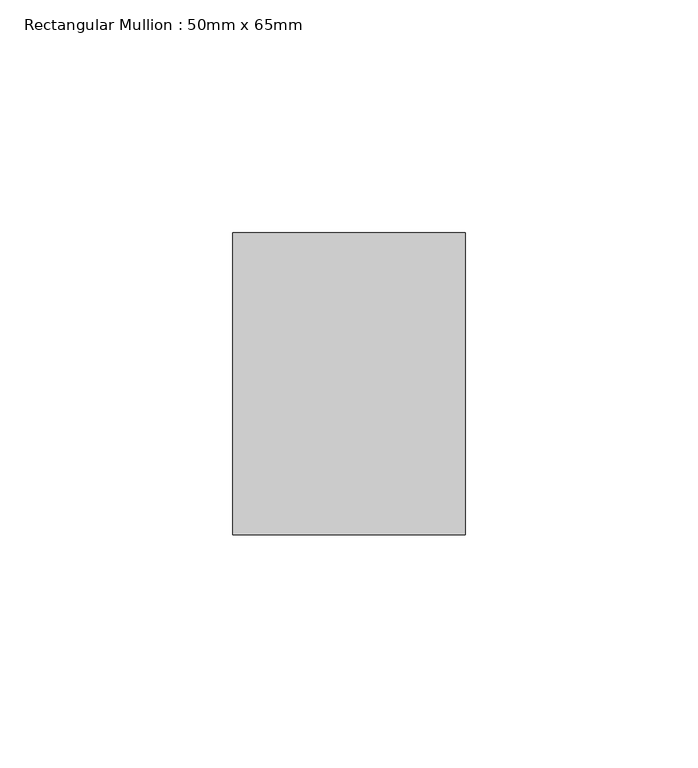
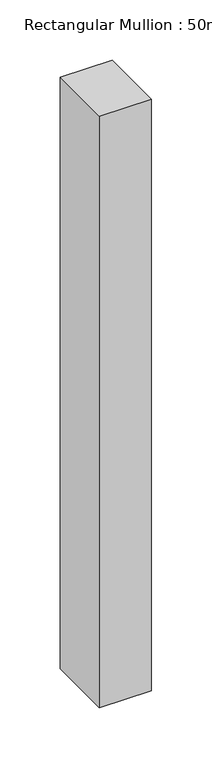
"""IFC4 building model written with IfcOpenShell, lengths in millimetres: member geometry, Rectangular Mullion : 50mm x 65mm."""

from ifc_helpers import new_model, si_unit, frame, origin, place, context, project, spatial, polyline, outline, extrude, source, transform, mapped, element, save


def rectangular_mullion_50mm_x_65mm_ff5aef03(model_context):
    return source(origin(), model_context, "Body", "SweptSolid", [
        extrude(outline(polyline([(0.0, 32.5), (0.0, -32.5), (-50.0, -32.5), (-50.0, 32.5), (0.0, 32.5)])), frame((0.0, 0.0, -600.0), z_axis=(0.0, 0.0, 1.0), x_axis=(1.0, 0.0, 0.0)), (0.0, 0.0, 1.0), 600.0),
    ])


if __name__ == "__main__":
    model = new_model("IFC4")
    model_context = context("Model", 3, world=origin())
    ifc_project = project(units=[si_unit("LENGTHUNIT", "METRE", prefix="MILLI")], contexts=[model_context])
    site = spatial("IfcSite", under=ifc_project)
    building = spatial("IfcBuilding", under=site)
    placement = place(None, origin())
    rectangular_mullion_50mm_x_65mm_shape = rectangular_mullion_50mm_x_65mm_ff5aef03(model_context)
    element("IfcMember", 1, ObjectType="Rectangular Mullion : 50mm x 65mm", at=placement, inside=building, context=model_context, shape_type="MappedRepresentation", body=[
        mapped(rectangular_mullion_50mm_x_65mm_shape, transform((0.0, 0.0, 0.0), x_axis=(1.0, 0.0, 0.0), y_axis=(0.0, 1.0, 0.0), z_axis=(0.0, 0.0, 1.0))),
    ])
    save(model, "model.ifc")
